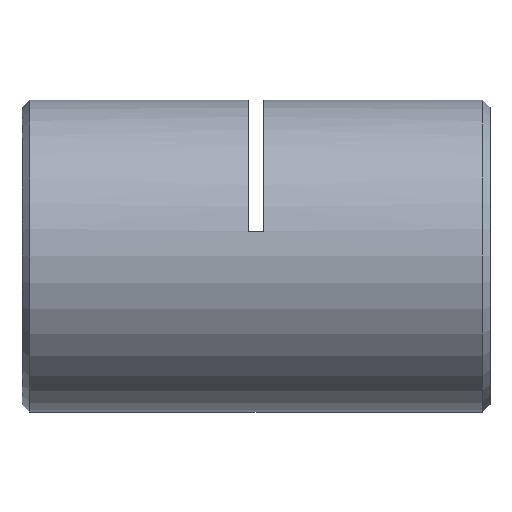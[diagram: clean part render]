
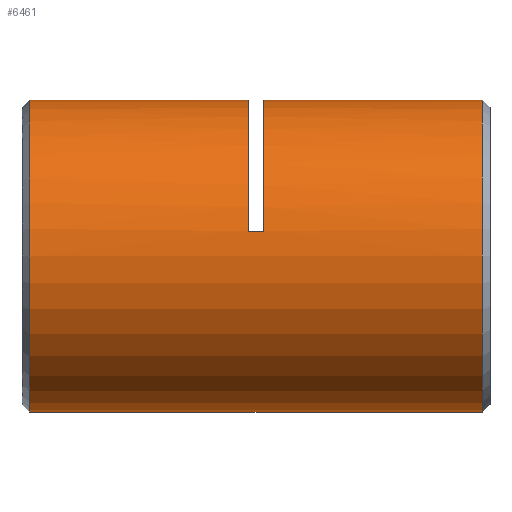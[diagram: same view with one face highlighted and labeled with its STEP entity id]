
A CAD part, left-side view. The second image highlights one B-rep face of the part: STEP entity #6461.
In plain terms, the highlighted cylindrical face has radius 8 mm (diameter 16 mm), a partial arc.
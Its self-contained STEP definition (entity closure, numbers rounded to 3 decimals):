
#87 = CARTESIAN_POINT ( 'NONE',  ( 0., 0.25, 8. ) ) ;
#178 = CARTESIAN_POINT ( 'NONE',  ( 0., 23.85, 8. ) ) ;
#221 = CARTESIAN_POINT ( 'NONE',  ( 0., 0.65, -8. ) ) ;
#276 = DIRECTION ( 'NONE',  ( 0., 0., 1. ) ) ;
#334 = DIRECTION ( 'NONE',  ( 0., 1., 0. ) ) ;
#669 = CARTESIAN_POINT ( 'NONE',  ( 0., 23.85, -8. ) ) ;
#700 = CARTESIAN_POINT ( 'NONE',  ( 0., 0.65, 8. ) ) ;
#785 = AXIS2_PLACEMENT_3D ( 'NONE', #6175, #4117, #6239 ) ;
#795 = ORIENTED_EDGE ( 'NONE', *, *, #4967, .T. ) ;
#928 = DIRECTION ( 'NONE',  ( 0., 1., 0. ) ) ;
#976 = CARTESIAN_POINT ( 'NONE',  ( 0., 12.65, 8. ) ) ;
#1021 = ORIENTED_EDGE ( 'NONE', *, *, #4570, .T. ) ;
#1090 = CARTESIAN_POINT ( 'NONE',  ( 0., 0.65, 0. ) ) ;
#1118 = DIRECTION ( 'NONE',  ( 0., 1., 0. ) ) ;
#1148 = VECTOR ( 'NONE', #4706, 1000. ) ;
#1316 = DIRECTION ( 'NONE',  ( 0., 1., 0. ) ) ;
#1323 = VECTOR ( 'NONE', #334, 1000. ) ;
#1434 = LINE ( 'NONE', #6220, #5420 ) ;
#1453 = DIRECTION ( 'NONE',  ( 0., 0., 1. ) ) ;
#1478 = LINE ( 'NONE', #87, #1148 ) ;
#1493 = VERTEX_POINT ( 'NONE', #976 ) ;
#1541 = VERTEX_POINT ( 'NONE', #4695 ) ;
#1807 = EDGE_CURVE ( 'NONE', #1541, #5557, #4769, .T. ) ;
#2389 = CIRCLE ( 'NONE', #4173, 8. ) ;
#2523 = LINE ( 'NONE', #6020, #1323 ) ;
#2608 = CYLINDRICAL_SURFACE ( 'NONE', #3149, 8. ) ;
#2757 = EDGE_CURVE ( 'NONE', #5401, #3069, #2523, .T. ) ;
#2837 = EDGE_CURVE ( 'NONE', #5401, #5997, #6186, .T. ) ;
#2887 = CARTESIAN_POINT ( 'NONE',  ( 0., 11.85, 0. ) ) ;
#2954 = VECTOR ( 'NONE', #1316, 1000. ) ;
#3069 = VERTEX_POINT ( 'NONE', #669 ) ;
#3149 = AXIS2_PLACEMENT_3D ( 'NONE', #5272, #4380, #4883 ) ;
#3311 = ORIENTED_EDGE ( 'NONE', *, *, #4542, .T. ) ;
#3428 = FACE_OUTER_BOUND ( 'NONE', #3781, .T. ) ;
#3440 = EDGE_CURVE ( 'NONE', #1493, #3632, #1478, .T. ) ;
#3483 = CARTESIAN_POINT ( 'NONE',  ( 0., 12.65, 0. ) ) ;
#3632 = VERTEX_POINT ( 'NONE', #178 ) ;
#3716 = VERTEX_POINT ( 'NONE', #4823 ) ;
#3781 = EDGE_LOOP ( 'NONE', ( #6558, #3998, #3311, #3877, #4983, #795, #4021, #1021 ) ) ;
#3877 = ORIENTED_EDGE ( 'NONE', *, *, #1807, .F. ) ;
#3998 = ORIENTED_EDGE ( 'NONE', *, *, #2837, .T. ) ;
#4021 = ORIENTED_EDGE ( 'NONE', *, *, #3440, .T. ) ;
#4117 = DIRECTION ( 'NONE',  ( 0., -1., 0. ) ) ;
#4137 = DIRECTION ( 'NONE',  ( 0., 1., 0. ) ) ;
#4173 = AXIS2_PLACEMENT_3D ( 'NONE', #3483, #5555, #1453 ) ;
#4232 = AXIS2_PLACEMENT_3D ( 'NONE', #2887, #928, #276 ) ;
#4277 = DIRECTION ( 'NONE',  ( 0., 0., 1. ) ) ;
#4380 = DIRECTION ( 'NONE',  ( 0., 1., 0. ) ) ;
#4542 = EDGE_CURVE ( 'NONE', #5997, #5557, #1434, .T. ) ;
#4570 = EDGE_CURVE ( 'NONE', #3632, #3069, #6547, .T. ) ;
#4695 = CARTESIAN_POINT ( 'NONE',  ( -7.897, 11.85, 1.28 ) ) ;
#4706 = DIRECTION ( 'NONE',  ( 0., 1., 0. ) ) ;
#4769 = CIRCLE ( 'NONE', #4232, 8. ) ;
#4823 = CARTESIAN_POINT ( 'NONE',  ( -7.897, 12.65, 1.28 ) ) ;
#4883 = DIRECTION ( 'NONE',  ( 0., 0., 1. ) ) ;
#4967 = EDGE_CURVE ( 'NONE', #3716, #1493, #2389, .T. ) ;
#4983 = ORIENTED_EDGE ( 'NONE', *, *, #6375, .T. ) ;
#5185 = AXIS2_PLACEMENT_3D ( 'NONE', #1090, #1118, #4277 ) ;
#5272 = CARTESIAN_POINT ( 'NONE',  ( 0., 0.25, 0. ) ) ;
#5401 = VERTEX_POINT ( 'NONE', #221 ) ;
#5420 = VECTOR ( 'NONE', #4137, 1000. ) ;
#5427 = CARTESIAN_POINT ( 'NONE',  ( -7.897, 12.25, 1.28 ) ) ;
#5555 = DIRECTION ( 'NONE',  ( 0., 1., 0. ) ) ;
#5557 = VERTEX_POINT ( 'NONE', #6035 ) ;
#5716 = LINE ( 'NONE', #5427, #2954 ) ;
#5997 = VERTEX_POINT ( 'NONE', #700 ) ;
#6020 = CARTESIAN_POINT ( 'NONE',  ( 0., 0.25, -8. ) ) ;
#6035 = CARTESIAN_POINT ( 'NONE',  ( 0., 11.85, 8. ) ) ;
#6175 = CARTESIAN_POINT ( 'NONE',  ( 0., 23.85, 0. ) ) ;
#6186 = CIRCLE ( 'NONE', #5185, 8. ) ;
#6220 = CARTESIAN_POINT ( 'NONE',  ( 0., 0.25, 8. ) ) ;
#6239 = DIRECTION ( 'NONE',  ( 0., 0., -1. ) ) ;
#6375 = EDGE_CURVE ( 'NONE', #1541, #3716, #5716, .T. ) ;
#6461 = ADVANCED_FACE ( 'NONE', ( #3428 ), #2608, .T. ) ;
#6547 = CIRCLE ( 'NONE', #785, 8. ) ;
#6558 = ORIENTED_EDGE ( 'NONE', *, *, #2757, .F. ) ;
